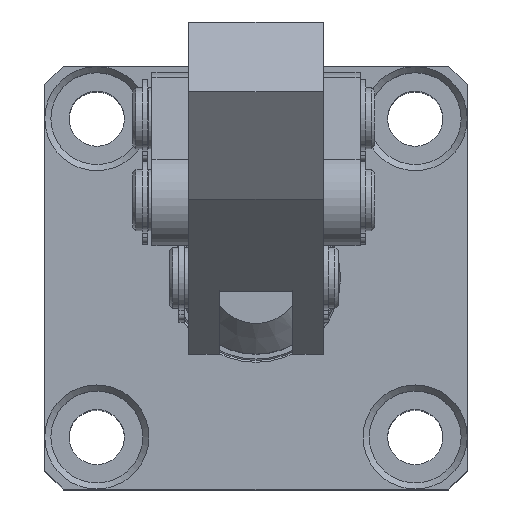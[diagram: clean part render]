
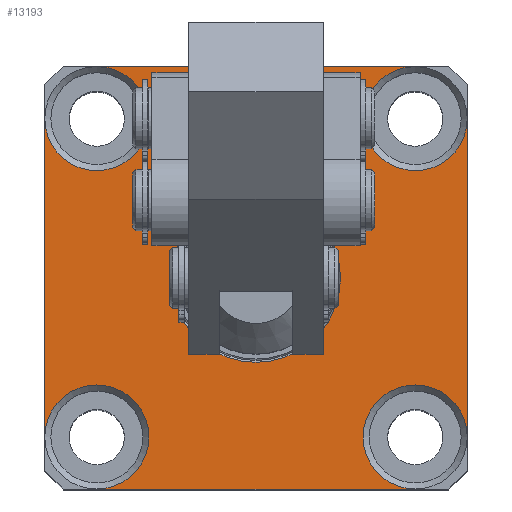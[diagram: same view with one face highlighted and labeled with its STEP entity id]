
A CAD part, top view. The second image highlights one B-rep face of the part: STEP entity #13193.
In plain terms, the highlighted planar face has unit normal (0, 0, 1).
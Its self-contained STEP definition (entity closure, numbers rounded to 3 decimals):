
#279=FACE_BOUND('',#3068,.T.);
#280=FACE_BOUND('',#3069,.T.);
#530=PLANE('',#13971);
#1424=CIRCLE('',#13888,8.5);
#1426=CIRCLE('',#13891,8.5);
#1428=CIRCLE('',#13893,8.5);
#1430=CIRCLE('',#13896,8.5);
#1433=CIRCLE('',#13900,8.5);
#1435=CIRCLE('',#13902,8.5);
#1437=CIRCLE('',#13905,0.5);
#1449=CIRCLE('',#13924,13.8);
#2260=FACE_OUTER_BOUND('',#3067,.T.);
#3067=EDGE_LOOP('',(#11132,#11133,#11134,#11135,#11136,#11137,#11138,#11139,
#11140,#11141));
#3068=EDGE_LOOP('',(#11142));
#3069=EDGE_LOOP('',(#11143));
#4178=LINE('',#24773,#5175);
#4213=LINE('',#25175,#5210);
#4214=LINE('',#25176,#5211);
#4215=LINE('',#25177,#5212);
#5175=VECTOR('',#15680,1000.);
#5210=VECTOR('',#15911,1000.);
#5211=VECTOR('',#15912,1000.);
#5212=VECTOR('',#15913,1000.);
#6303=VERTEX_POINT('',#24770);
#6304=VERTEX_POINT('',#24772);
#6311=VERTEX_POINT('',#24865);
#6312=VERTEX_POINT('',#24867);
#6314=VERTEX_POINT('',#24873);
#6315=VERTEX_POINT('',#24875);
#6316=VERTEX_POINT('',#24877);
#6318=VERTEX_POINT('',#24883);
#6320=VERTEX_POINT('',#24890);
#6321=VERTEX_POINT('',#24892);
#6323=VERTEX_POINT('',#24899);
#6335=VERTEX_POINT('',#24937);
#7948=EDGE_CURVE('',#6304,#6303,#4178,.T.);
#7960=EDGE_CURVE('',#6311,#6312,#1424,.T.);
#7963=EDGE_CURVE('',#6315,#6314,#1426,.T.);
#7965=EDGE_CURVE('',#6314,#6316,#1428,.T.);
#7968=EDGE_CURVE('',#6303,#6318,#1430,.T.);
#7972=EDGE_CURVE('',#6321,#6320,#1433,.T.);
#7974=EDGE_CURVE('',#6320,#6304,#1435,.T.);
#7977=EDGE_CURVE('',#6323,#6323,#1437,.T.);
#7996=EDGE_CURVE('',#6335,#6335,#1449,.T.);
#8045=EDGE_CURVE('',#6316,#6321,#4213,.T.);
#8046=EDGE_CURVE('',#6318,#6311,#4214,.T.);
#8047=EDGE_CURVE('',#6312,#6315,#4215,.T.);
#11132=ORIENTED_EDGE('',*,*,#8045,.T.);
#11133=ORIENTED_EDGE('',*,*,#7972,.T.);
#11134=ORIENTED_EDGE('',*,*,#7974,.T.);
#11135=ORIENTED_EDGE('',*,*,#7948,.T.);
#11136=ORIENTED_EDGE('',*,*,#7968,.T.);
#11137=ORIENTED_EDGE('',*,*,#8046,.T.);
#11138=ORIENTED_EDGE('',*,*,#7960,.T.);
#11139=ORIENTED_EDGE('',*,*,#8047,.T.);
#11140=ORIENTED_EDGE('',*,*,#7963,.T.);
#11141=ORIENTED_EDGE('',*,*,#7965,.T.);
#11142=ORIENTED_EDGE('',*,*,#7996,.T.);
#11143=ORIENTED_EDGE('',*,*,#7977,.F.);
#13193=ADVANCED_FACE('',(#2260,#279,#280),#530,.F.);
#13888=AXIS2_PLACEMENT_3D('',#24869,#15714,#15715);
#13891=AXIS2_PLACEMENT_3D('',#24876,#15721,#15722);
#13893=AXIS2_PLACEMENT_3D('',#24879,#15725,#15726);
#13896=AXIS2_PLACEMENT_3D('',#24885,#15732,#15733);
#13900=AXIS2_PLACEMENT_3D('',#24893,#15741,#15742);
#13902=AXIS2_PLACEMENT_3D('',#24895,#15745,#15746);
#13905=AXIS2_PLACEMENT_3D('',#24901,#15752,#15753);
#13924=AXIS2_PLACEMENT_3D('',#24939,#15797,#15798);
#13971=AXIS2_PLACEMENT_3D('',#25174,#15909,#15910);
#15680=DIRECTION('',(-1.,0.,0.));
#15714=DIRECTION('center_axis',(0.,0.,-1.));
#15715=DIRECTION('ref_axis',(-1.,0.,0.));
#15721=DIRECTION('center_axis',(0.,0.,-1.));
#15722=DIRECTION('ref_axis',(-1.,0.,0.));
#15725=DIRECTION('center_axis',(0.,0.,-1.));
#15726=DIRECTION('ref_axis',(-1.,0.,0.));
#15732=DIRECTION('center_axis',(0.,0.,-1.));
#15733=DIRECTION('ref_axis',(-1.,0.,0.));
#15741=DIRECTION('center_axis',(0.,0.,-1.));
#15742=DIRECTION('ref_axis',(-1.,0.,0.));
#15745=DIRECTION('center_axis',(0.,0.,-1.));
#15746=DIRECTION('ref_axis',(-1.,0.,0.));
#15752=DIRECTION('center_axis',(0.,0.,1.));
#15753=DIRECTION('ref_axis',(1.,0.,0.));
#15797=DIRECTION('center_axis',(0.,0.,-1.));
#15798=DIRECTION('ref_axis',(-1.,0.,0.));
#15909=DIRECTION('center_axis',(0.,0.,-1.));
#15910=DIRECTION('ref_axis',(-1.,0.,0.));
#15911=DIRECTION('',(0.,1.,0.));
#15912=DIRECTION('',(0.,-1.,0.));
#15913=DIRECTION('',(1.,0.,0.));
#24770=CARTESIAN_POINT('',(8.5,69.,90.));
#24772=CARTESIAN_POINT('',(60.5,69.,90.));
#24773=CARTESIAN_POINT('',(0.,69.,90.));
#24865=CARTESIAN_POINT('',(0.,8.5,90.));
#24867=CARTESIAN_POINT('',(8.5,0.,90.));
#24869=CARTESIAN_POINT('Origin',(8.5,8.5,90.));
#24873=CARTESIAN_POINT('',(52.,8.5,90.));
#24875=CARTESIAN_POINT('',(60.5,0.,90.));
#24876=CARTESIAN_POINT('Origin',(60.5,8.5,90.));
#24877=CARTESIAN_POINT('',(69.,8.5,90.));
#24879=CARTESIAN_POINT('Origin',(60.5,8.5,90.));
#24883=CARTESIAN_POINT('',(0.,60.5,90.));
#24885=CARTESIAN_POINT('Origin',(8.5,60.5,90.));
#24890=CARTESIAN_POINT('',(52.,60.5,90.));
#24892=CARTESIAN_POINT('',(69.,60.5,90.));
#24893=CARTESIAN_POINT('Origin',(60.5,60.5,90.));
#24895=CARTESIAN_POINT('Origin',(60.5,60.5,90.));
#24899=CARTESIAN_POINT('',(34.,60.5,90.));
#24901=CARTESIAN_POINT('Origin',(34.5,60.5,90.));
#24937=CARTESIAN_POINT('',(20.7,34.5,90.));
#24939=CARTESIAN_POINT('Origin',(34.5,34.5,90.));
#25174=CARTESIAN_POINT('Origin',(0.,0.,90.));
#25175=CARTESIAN_POINT('',(69.,0.,90.));
#25176=CARTESIAN_POINT('',(0.,0.,90.));
#25177=CARTESIAN_POINT('',(0.,0.,90.));
